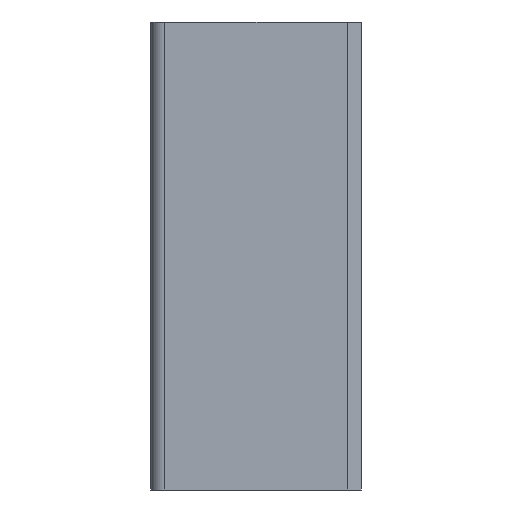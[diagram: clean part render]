
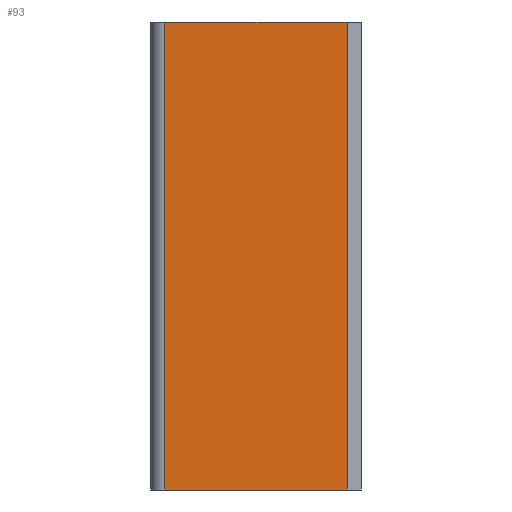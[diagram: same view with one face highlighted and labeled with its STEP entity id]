
A CAD part, left-side view. The second image highlights one B-rep face of the part: STEP entity #93.
In plain terms, the highlighted face is a extrusion surface.
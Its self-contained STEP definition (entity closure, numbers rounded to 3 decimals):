
#54=CARTESIAN_POINT('Control Point',(0.,3.,-100.)) ;
#55=CARTESIAN_POINT('Control Point',(0.,3.,0.)) ;
#59=CARTESIAN_POINT('Line Origine',(0.,22.5,0.)) ;
#63=CARTESIAN_POINT('Vertex',(0.,3.,0.)) ;
#65=CARTESIAN_POINT('Vertex',(0.,42.,0.)) ;
#68=CARTESIAN_POINT('Line Origine',(0.,42.,-50.)) ;
#72=CARTESIAN_POINT('Vertex',(0.,42.,-100.)) ;
#75=CARTESIAN_POINT('Line Origine',(0.,22.5,-100.)) ;
#79=CARTESIAN_POINT('Vertex',(0.,3.,-100.)) ;
#82=CARTESIAN_POINT('Line Origine',(0.,3.,-50.)) ;
#56=DIRECTION('Vector Direction',(0.,1.,0.)) ;
#60=DIRECTION('Vector Direction',(0.,1.,0.)) ;
#69=DIRECTION('Vector Direction',(0.,0.,1.)) ;
#76=DIRECTION('Vector Direction',(0.,1.,0.)) ;
#83=DIRECTION('Vector Direction',(0.,0.,1.)) ;
#88=ORIENTED_EDGE('',*,*,#67,.T.) ;
#89=ORIENTED_EDGE('',*,*,#74,.T.) ;
#90=ORIENTED_EDGE('',*,*,#81,.T.) ;
#91=ORIENTED_EDGE('',*,*,#86,.T.) ;
#57=VECTOR('Extrusion Surface Vector',#56,1.) ;
#61=VECTOR('Line Direction',#60,1.) ;
#70=VECTOR('Line Direction',#69,1.) ;
#77=VECTOR('Line Direction',#76,1.) ;
#84=VECTOR('Line Direction',#83,1.) ;
#93=ADVANCED_FACE('Superficie.1',(#92),#58,.T.) ;
#53=B_SPLINE_CURVE_WITH_KNOTS('',1,(#54,#55),.UNSPECIFIED.,.F.,.U.,(2,2),(-50.,50.),.UNSPECIFIED.) ;
#67=EDGE_CURVE('',#64,#66,#62,.T.) ;
#74=EDGE_CURVE('',#66,#73,#71,.F.) ;
#81=EDGE_CURVE('',#73,#80,#78,.F.) ;
#86=EDGE_CURVE('',#80,#64,#85,.T.) ;
#87=EDGE_LOOP('',(#88,#89,#90,#91)) ;
#92=FACE_OUTER_BOUND('',#87,.T.) ;
#62=LINE('Line',#59,#61) ;
#71=LINE('Line',#68,#70) ;
#78=LINE('Line',#75,#77) ;
#85=LINE('Line',#82,#84) ;
#58=SURFACE_OF_LINEAR_EXTRUSION('generated tabulated cylinder',#53,#57) ;
#64=VERTEX_POINT('',#63) ;
#66=VERTEX_POINT('',#65) ;
#73=VERTEX_POINT('',#72) ;
#80=VERTEX_POINT('',#79) ;
